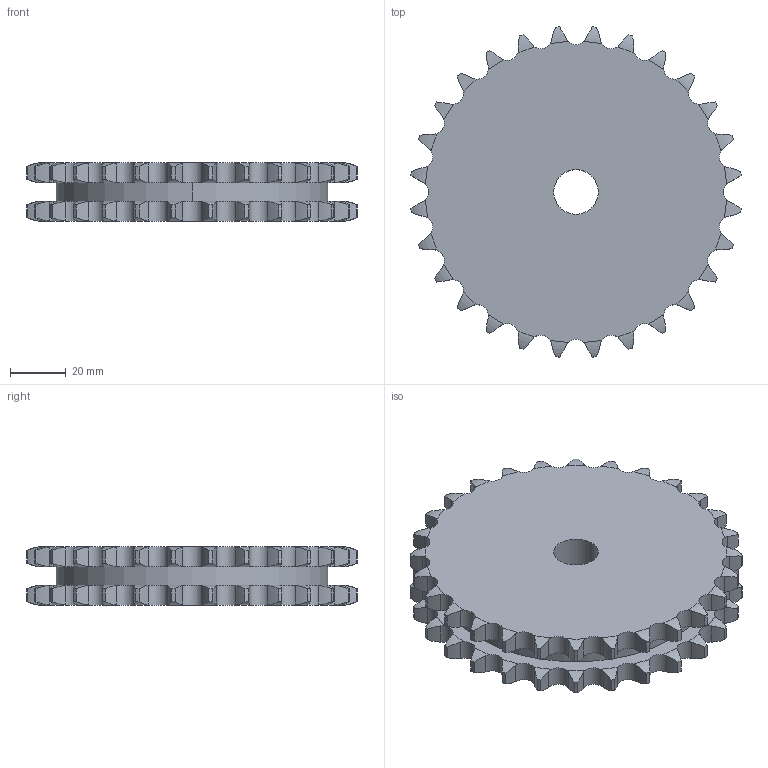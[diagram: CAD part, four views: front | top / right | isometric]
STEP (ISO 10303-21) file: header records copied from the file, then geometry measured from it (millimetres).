
FILE_DESCRIPTION((''),'2;1');
FILE_NAME('500-202-0028_PRT','2021-02-12T',('Brieden'),('Brieden'),'PRO/ENGINEER BY PARAMETRIC TECHNOLOGY CORPORATION, 2010160','PRO/ENGINEER BY PARAMETRIC TECHNOLOGY CORPORATION, 2010160','');
FILE_SCHEMA(('AUTOMOTIVE_DESIGN { 1 0 10303 214 1 1 1 1 }'));
Length unit declared in the file: millimetre
Products named in the file (1): 500-202-0028_PRT
Bounding box: 118.51 x 118.51 x 21 mm (x, y, z)
Volume: 183303.6 mm3; surface area: 33722.5 mm2
Topology: 1 solids, 1 shells, 344 faces, 1020 edges, 680 vertices
Faces by surface type: cylinder 228, torus 112, plane 4
Entity records: 16472 total; most frequent: CARTESIAN_POINT 4673, ORIENTED_EDGE 2040, DIRECTION 1604, PRESENTATION_STYLE_ASSIGNMENT 1021, STYLED_ITEM 1021, CURVE_STYLE 1020, EDGE_CURVE 1020, AXIS2_PLACEMENT_3D 688
